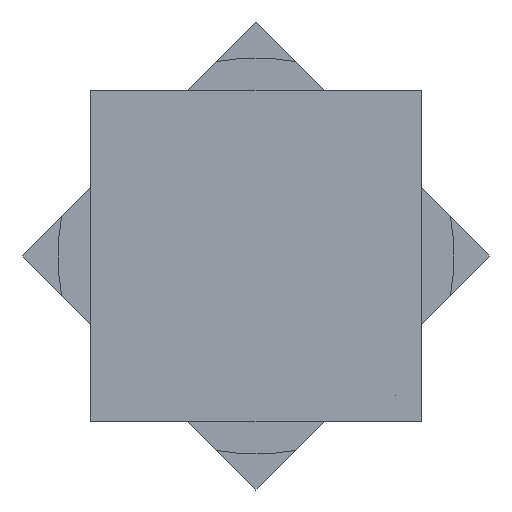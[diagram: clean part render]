
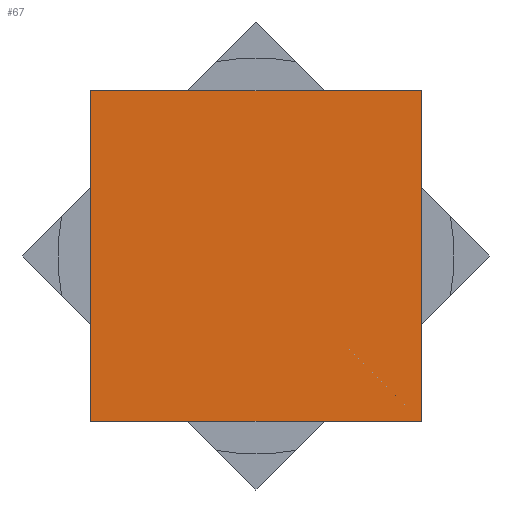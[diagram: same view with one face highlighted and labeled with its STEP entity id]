
A CAD part, front view. The second image highlights one B-rep face of the part: STEP entity #67.
In plain terms, the highlighted planar face has unit normal (0, -1, 0).
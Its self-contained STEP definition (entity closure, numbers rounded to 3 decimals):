
#5 = VERTEX_POINT ( 'NONE', #354 ) ;
#7 = EDGE_CURVE ( 'NONE', #5, #8, #353, .T. ) ;
#8 = VERTEX_POINT ( 'NONE', #292 ) ;
#30 = EDGE_CURVE ( 'NONE', #8, #87, #333, .T. ) ;
#32 = EDGE_LOOP ( 'NONE', ( #127, #128, #76, #77 ) ) ;
#38 = EDGE_CURVE ( 'NONE', #87, #116, #386, .T. ) ;
#67 = ADVANCED_FACE ( 'NONE', ( #458 ), #457, .F. ) ;
#76 = ORIENTED_EDGE ( 'NONE', *, *, #38, .F. ) ;
#77 = ORIENTED_EDGE ( 'NONE', *, *, #30, .F. ) ;
#87 = VERTEX_POINT ( 'NONE', #529 ) ;
#116 = VERTEX_POINT ( 'NONE', #427 ) ;
#118 = EDGE_CURVE ( 'NONE', #116, #5, #639, .T. ) ;
#127 = ORIENTED_EDGE ( 'NONE', *, *, #7, .F. ) ;
#128 = ORIENTED_EDGE ( 'NONE', *, *, #118, .F. ) ;
#292 = CARTESIAN_POINT ( 'NONE',  ( -30., -20., 30. ) ) ;
#330 = DIRECTION ( 'NONE',  ( 1., 0., 0. ) ) ;
#331 = VECTOR ( 'NONE', #330, 1000. ) ;
#332 = CARTESIAN_POINT ( 'NONE',  ( -30., -20., 30. ) ) ;
#333 = LINE ( 'NONE', #332, #331 ) ;
#350 = DIRECTION ( 'NONE',  ( 0., 0., 1. ) ) ;
#351 = VECTOR ( 'NONE', #350, 1000. ) ;
#352 = CARTESIAN_POINT ( 'NONE',  ( -30., -20., -30. ) ) ;
#353 = LINE ( 'NONE', #352, #351 ) ;
#354 = CARTESIAN_POINT ( 'NONE',  ( -30., -20., -30. ) ) ;
#383 = DIRECTION ( 'NONE',  ( 0., 0., -1. ) ) ;
#384 = VECTOR ( 'NONE', #383, 1000. ) ;
#385 = CARTESIAN_POINT ( 'NONE',  ( 30., -20., -30. ) ) ;
#386 = LINE ( 'NONE', #385, #384 ) ;
#427 = CARTESIAN_POINT ( 'NONE',  ( 30., -20., -30. ) ) ;
#455 = CARTESIAN_POINT ( 'NONE',  ( -30., -20., 30. ) ) ;
#456 = AXIS2_PLACEMENT_3D ( 'NONE', #455, #463, #462 ) ;
#457 = PLANE ( 'NONE',  #456 ) ;
#458 = FACE_OUTER_BOUND ( 'NONE', #32, .T. ) ;
#462 = DIRECTION ( 'NONE',  ( 0., 0., 1. ) ) ;
#463 = DIRECTION ( 'NONE',  ( 0., 1., 0. ) ) ;
#529 = CARTESIAN_POINT ( 'NONE',  ( 30., -20., 30. ) ) ;
#636 = DIRECTION ( 'NONE',  ( -1., 0., 0. ) ) ;
#637 = VECTOR ( 'NONE', #636, 1000. ) ;
#638 = CARTESIAN_POINT ( 'NONE',  ( -30., -20., -30. ) ) ;
#639 = LINE ( 'NONE', #638, #637 ) ;
